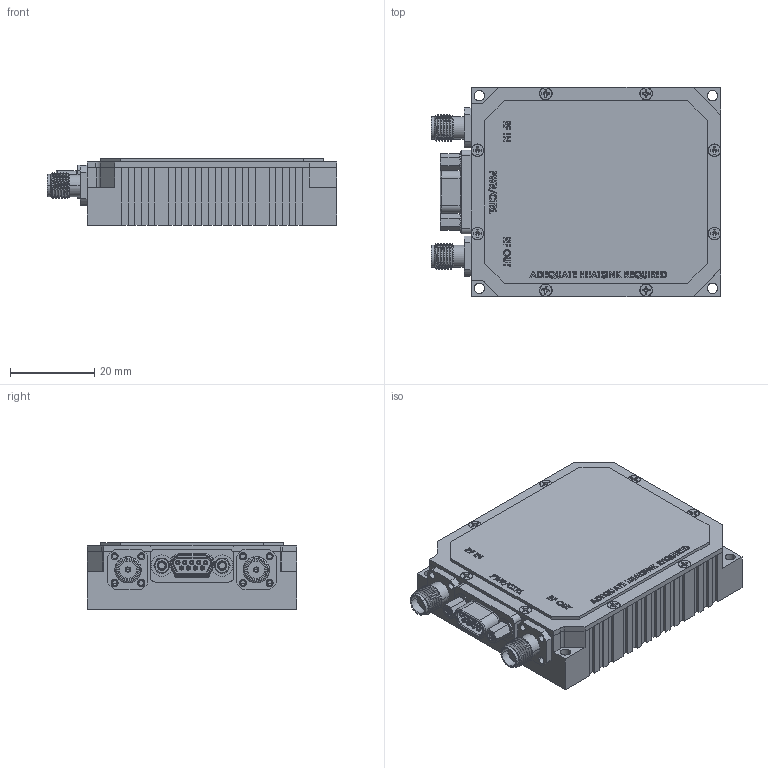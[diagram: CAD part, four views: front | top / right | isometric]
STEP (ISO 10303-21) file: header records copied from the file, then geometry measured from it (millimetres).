
FILE_DESCRIPTION (( 'STEP AP214' ), '1' );
FILE_NAME ('A6037-1000 MINI MOPA 3D MODEL.STEP', '2022-03-15T13:33:32', ( '' ), ( '' ), 'SwSTEP 2.0', 'SolidWorks 2021', '' );
FILE_SCHEMA (( 'AUTOMOTIVE_DESIGN' ));
Length unit declared in the file: inch
Products named in the file (8): A6037-1300; 96640A005_96640A005; A6037-1200; MDM JACK POST_91075A512; A6037-1000 MINI MOPA 3D MODEL; MDM JACK POST LOCK_98449A500; MDM-9P; DELTA COAX CABLE 430 LONG
Assembly tree (17 placements, depth 2):
  A6037-1000 MINI MOPA 3D MODEL
    A6037-1200
    A6037-1300
    MDM-9P
    DELTA COAX CABLE 430 LONG  x2
    96640A005_96640A005  x8
    MDM JACK POST_91075A512  x2
    MDM JACK POST LOCK_98449A500  x2
Bounding box: 68.94 x 49.78 x 15.82 mm (x, y, z)
Volume: 23205 mm3; surface area: 22088.9 mm2
Topology: 17 solids, 17 shells, 2194 faces, 6088 edges, 3979 vertices
Faces by surface type: plane 944, cylinder 785, cone 249, bspline 185, torus 31
Entity records: 59182 total; most frequent: CARTESIAN_POINT 22003, ORIENTED_EDGE 7596, DIRECTION 6413, EDGE_CURVE 3798, VECTOR 2601, LINE 2601, VERTEX_POINT 2502, AXIS2_PLACEMENT_3D 1906
